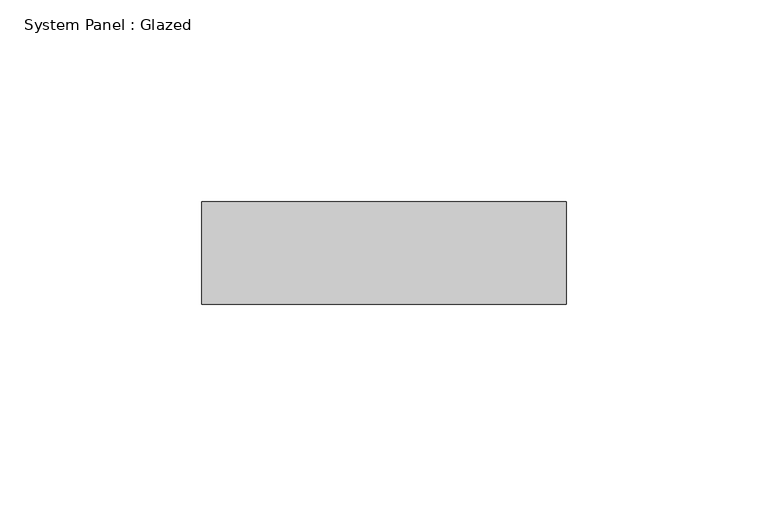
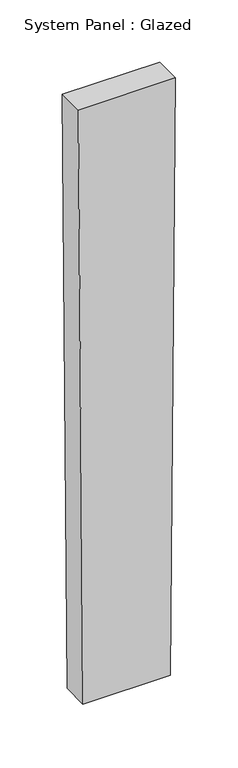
"""IFC4 building model written with IfcOpenShell, lengths in millimetres: plate geometry, System Panel : Glazed."""

from ifc_helpers import new_model, si_unit, frame, origin, place, context, project, spatial, polyline, outline, extrude, source, transform, mapped, element, save


def system_panel_glazed_e7caa36a(model_context):
    return source(origin(), model_context, "Body", "SweptSolid", [
        extrude(outline(polyline([(0.0, -40.5425861), (0.0, 40.5425861), (584.1811459, 45.1372475), (584.1811459, -45.1372475), (0.0, -40.5425861)])), frame((0.0, -44.45, 0.0), z_axis=(0.0, 1.0, 0.0), x_axis=(0.0, 0.0, 1.0)), (0.0, 0.0, 1.0), 25.4),
    ])


if __name__ == "__main__":
    model = new_model("IFC4")
    model_context = context("Model", 3, world=origin())
    ifc_project = project(units=[si_unit("LENGTHUNIT", "METRE", prefix="MILLI")], contexts=[model_context])
    site = spatial("IfcSite", under=ifc_project)
    building = spatial("IfcBuilding", under=site)
    placement = place(None, origin())
    system_panel_glazed_shape = system_panel_glazed_e7caa36a(model_context)
    element("IfcPlate", 1, ObjectType="System Panel : Glazed", at=placement, inside=building, context=model_context, shape_type="MappedRepresentation", body=[
        mapped(system_panel_glazed_shape, transform((0.0, 0.0, 0.0), x_axis=(1.0, 0.0, 0.0), y_axis=(0.0, 1.0, 0.0), z_axis=(0.0, 0.0, 1.0))),
    ])
    save(model, "model.ifc")
